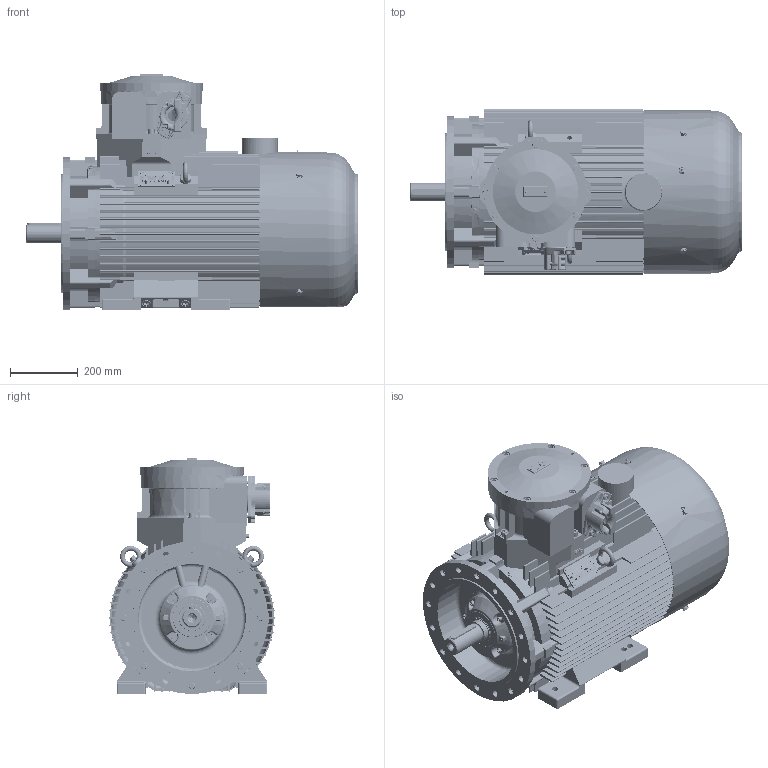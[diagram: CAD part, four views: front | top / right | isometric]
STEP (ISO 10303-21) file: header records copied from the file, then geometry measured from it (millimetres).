
FILE_DESCRIPTION(/* description */ ('Unknown'),/* implementation_level */ '2;1');
FILE_NAME(/* name */ 'Silnik cSTLe225 M2 - wykonanie OUTSIDE !',/* time_stamp */ '2021-12-23T09:39:42+01:00',/* author */ ('Unknown'),/* organization */ ('Unknown'),/* preprocessor_version */ 'ST-DEVELOPER v16.7',/* originating_system */ 'DEX',/* authorisation */ $);
FILE_SCHEMA (('AUTOMOTIVE_DESIGN {1 0 10303 214 3 1 1}'));
Products named in the file (1): Silnik cSTLe225 M2 - wykonanie OUTSIDE !
Bounding box: 979.13 x 489.83 x 696.46 mm (x, y, z)
Volume: 32811272.4 mm3; surface area: 7259428.3 mm2
Topology: 3 solids, 94 shells, 8864 faces, 24300 edges, 15646 vertices
Faces by surface type: plane 5619, cylinder 1892, cone 470, torus 365, bspline 356, sphere 162
Full cylindrical faces by diameter (mm): 1.2 x6, 1.6 x2, 2.459 x3, 2.5 x2, 3 x10, 3.1 x4, 3.2 x2, 3.4 x6, 4.773 x1, 4.917 x4, 5 x3, 6 x2, 6.2 x14, 6.3 x1, 6.4 x2, 6.466 x8, 6.5 x1, 6.647 x4, 8 x17, 8.16 x4, 8.376 x2, 8.8 x1, 8.917 x4, 9 x8, 9.853 x26, 10 x20, 10.106 x29, 10.5 x4, 12 x56, 13 x8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
Entity records: 351121 total; most frequent: CARTESIAN_POINT 71299, ORIENTED_EDGE 44998, DIRECTION 42811, EDGE_CURVE 22499, LINE 15807, VECTOR 15807, VERTEX_POINT 14995, AXIS2_PLACEMENT_3D 13502
